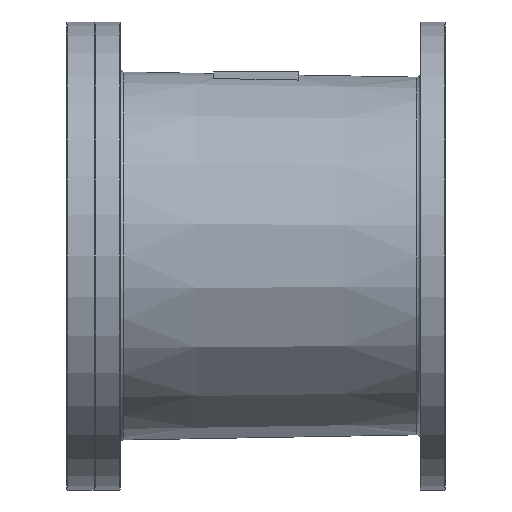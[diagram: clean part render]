
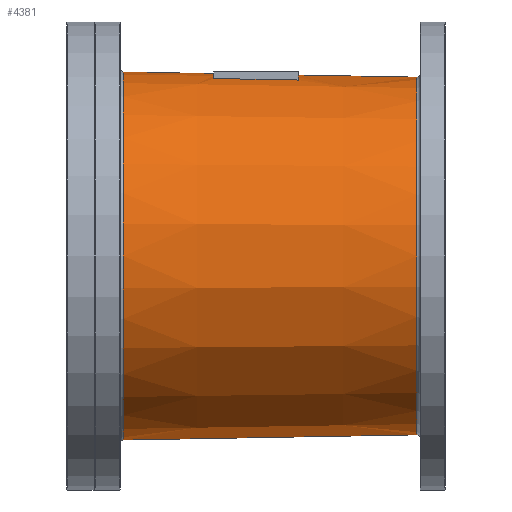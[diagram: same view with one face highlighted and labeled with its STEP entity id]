
A CAD part, front view. The second image highlights one B-rep face of the part: STEP entity #4381.
In plain terms, the highlighted conical face has half-angle 1.005 degrees and reference radius 172.5 mm.
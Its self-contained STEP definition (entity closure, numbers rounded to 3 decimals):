
#14=CONICAL_SURFACE('',#4650,172.5,0.018);
#21=(
BOUNDED_CURVE()
B_SPLINE_CURVE(2,(#8049,#8050,#8051),.UNSPECIFIED.,.F.,.F.)
B_SPLINE_CURVE_WITH_KNOTS((3,3),(0.,8.001),.UNSPECIFIED.)
CURVE()
GEOMETRIC_REPRESENTATION_ITEM()
RATIONAL_B_SPLINE_CURVE((1.,1.,1.))
REPRESENTATION_ITEM('')
);
#366=LINE('',#6040,#730);
#675=LINE('',#8059,#1039);
#676=LINE('',#8060,#1040);
#730=VECTOR('',#4876,10.);
#1039=VECTOR('',#5493,10.);
#1040=VECTOR('',#5494,10.);
#1318=FACE_OUTER_BOUND('',#1596,.T.);
#1596=EDGE_LOOP('',(#3895,#3896,#3897,#3898,#3899,#3900,#3901,#3902));
#1679=CIRCLE('',#4451,174.948);
#1703=CIRCLE('',#4492,170.054);
#1745=CIRCLE('',#4644,172.035);
#1746=CIRCLE('',#4648,173.439);
#1808=VERTEX_POINT('',#5785);
#1810=VERTEX_POINT('',#5791);
#1840=VERTEX_POINT('',#5970);
#1842=VERTEX_POINT('',#5976);
#1845=VERTEX_POINT('',#6038);
#2166=VERTEX_POINT('',#8041);
#2167=VERTEX_POINT('',#8048);
#2168=VERTEX_POINT('',#8054);
#2233=EDGE_CURVE('',#1810,#1808,#1679,.T.);
#2278=EDGE_CURVE('',#1840,#1842,#1703,.T.);
#2284=EDGE_CURVE('',#1845,#1840,#366,.T.);
#2756=EDGE_CURVE('',#1845,#2166,#1745,.T.);
#2760=EDGE_CURVE('',#2166,#2167,#21,.T.);
#2762=EDGE_CURVE('',#2167,#2168,#1746,.T.);
#2764=EDGE_CURVE('',#1810,#1842,#675,.T.);
#2765=EDGE_CURVE('',#1808,#2168,#676,.T.);
#3895=ORIENTED_EDGE('',*,*,#2233,.F.);
#3896=ORIENTED_EDGE('',*,*,#2764,.T.);
#3897=ORIENTED_EDGE('',*,*,#2278,.F.);
#3898=ORIENTED_EDGE('',*,*,#2284,.F.);
#3899=ORIENTED_EDGE('',*,*,#2756,.T.);
#3900=ORIENTED_EDGE('',*,*,#2760,.T.);
#3901=ORIENTED_EDGE('',*,*,#2762,.T.);
#3902=ORIENTED_EDGE('',*,*,#2765,.F.);
#4381=ADVANCED_FACE('',(#1318),#14,.T.);
#4451=AXIS2_PLACEMENT_3D('',#5793,#4768,#4769);
#4492=AXIS2_PLACEMENT_3D('',#5980,#4863,#4864);
#4644=AXIS2_PLACEMENT_3D('',#8042,#5474,#5475);
#4648=AXIS2_PLACEMENT_3D('',#8055,#5486,#5487);
#4650=AXIS2_PLACEMENT_3D('',#8058,#5491,#5492);
#4768=DIRECTION('center_axis',(-1.,0.,0.));
#4769=DIRECTION('ref_axis',(0.,-1.,0.));
#4863=DIRECTION('center_axis',(1.,0.,0.));
#4864=DIRECTION('ref_axis',(0.,-1.,0.));
#4876=DIRECTION('',(1.,0.,-0.018));
#5474=DIRECTION('center_axis',(1.,0.,0.));
#5475=DIRECTION('ref_axis',(0.,1.,0.));
#5486=DIRECTION('center_axis',(-1.,0.,0.));
#5487=DIRECTION('ref_axis',(0.,1.,0.));
#5491=DIRECTION('center_axis',(-1.,0.,0.));
#5492=DIRECTION('ref_axis',(0.,-1.,0.));
#5493=DIRECTION('',(1.,0.,0.018));
#5494=DIRECTION('',(1.,0.,-0.018));
#5785=CARTESIAN_POINT('',(-126.053,0.,174.948));
#5791=CARTESIAN_POINT('',(-126.053,0.,-174.948));
#5793=CARTESIAN_POINT('Origin',(-126.053,0.,
0.));
#5970=CARTESIAN_POINT('',(152.947,0.,170.054));
#5976=CARTESIAN_POINT('',(152.947,0.,-170.054));
#5980=CARTESIAN_POINT('Origin',(152.947,0.,0.));
#6038=CARTESIAN_POINT('',(40.,0.,172.035));
#6040=CARTESIAN_POINT('',(13.5,0.,172.5));
#8041=CARTESIAN_POINT('',(40.,-40.,167.32));
#8042=CARTESIAN_POINT('Origin',(40.,0.,0.));
#8048=CARTESIAN_POINT('',(-40.,-40.,168.763));
#8049=CARTESIAN_POINT('Ctrl Pts',(40.,-40.,167.32));
#8050=CARTESIAN_POINT('Ctrl Pts',(0.172,-40.,168.039));
#8051=CARTESIAN_POINT('Ctrl Pts',(-40.,-40.,168.763));
#8054=CARTESIAN_POINT('',(-40.,0.,173.439));
#8055=CARTESIAN_POINT('Origin',(-40.,0.,0.));
#8058=CARTESIAN_POINT('Origin',(13.5,0.,0.));
#8059=CARTESIAN_POINT('',(13.5,0.,-172.5));
#8060=CARTESIAN_POINT('',(13.5,0.,172.5));
